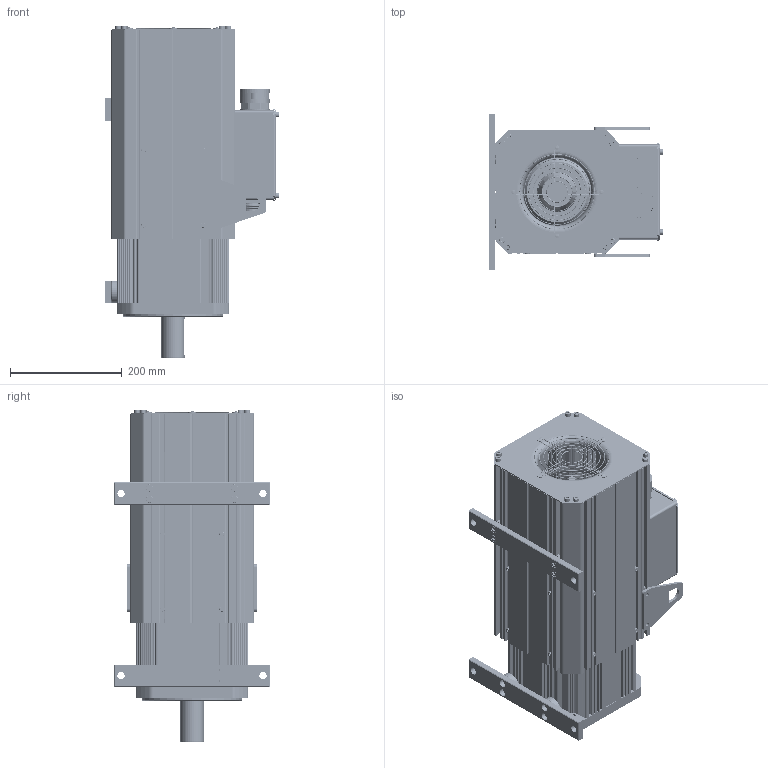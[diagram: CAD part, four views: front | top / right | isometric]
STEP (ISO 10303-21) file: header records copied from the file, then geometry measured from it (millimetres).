
FILE_DESCRIPTION((''),'2;1');
FILE_NAME('K058F18C18P_ASM','2023-05-23T14:29:39',('admin'),(''),'CREO PARAMETRIC BY PTC INC, 2019080','CREO PARAMETRIC BY PTC INC, 2019080','');
FILE_SCHEMA(('CONFIG_CONTROL_DESIGN'));
Products named in the file (44): QDG_10600-00001; ZZ_12400-01002_11KW; ZC_30400-00001; ZC_30400-01002; ZCZDQ_11200-00001; ZZZJ_80500-01002_11KW_ASM; O-RING_50000-01002; JK_10200-44045_11KW; DZZJ_80200-08009_11KW_ASM; FDB_12900-64065_11KW; DEGDT_11500-02003; DE_11300-00001; O-RING_50000-02003; YXHQ_20300-00001; O-RING_50000-03004; JXHT_41000-09010; JXHG_41000-00001; JXHGDK_11600-04005; M6X10; XJD_50800-11012; AD13_1; AD42P5_3; MFD_YD28-15P; HKXZ_YD28-15P_40100-00001; PDLD_4X12; JXHZJ_81100-00002_ASM; M5X25; HDG_21200-00001; M8X30; HGB_21600-00001; M4X10; FJ_40000-03004; FJFHB_11100-02003; FHW_30500-00001; PDQ_4; MD_4; FJFHBZZ_ASM; QZCJ_10400-15016; DK_12800-32033; HZCJ_10400-16017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
Assembly tree (102 placements, depth 3):
  K058F18C18P_ASM
    QDG_10600-00001
    ZZZJ_80500-01002_11KW_ASM
      ZZ_12400-01002_11KW
      ZC_30400-00001
      ZC_30400-01002
      ZCZDQ_11200-00001
    O-RING_50000-01002
    DZZJ_80200-08009_11KW_ASM
      JK_10200-44045_11KW
    FDB_12900-64065_11KW
    DEGDT_11500-02003  x2
    DE_11300-00001  x2
    O-RING_50000-02003
    YXHQ_20300-00001
    O-RING_50000-03004
    JXHZJ_81100-00002_ASM
      JXHT_41000-09010
      JXHG_41000-00001
      JXHGDK_11600-04005  x4
      M6X10  x8
      XJD_50800-11012
      AD13_1
      AD42P5_3
      MFD_YD28-15P
      HKXZ_YD28-15P_40100-00001
      PDLD_4X12  x4
    M5X25  x16
    HDG_21200-00001
    M8X30  x8
    HGB_21600-00001
    M4X10  x4
    FJ_40000-03004
    FJFHBZZ_ASM
      FJFHB_11100-02003
      FHW_30500-00001
      PDQ_4  x4
      MD_4  x4
    M6X10  x8
    ZCJZJ_22300-00007_11KW_ASM
      QZCJ_10400-15016
      DK_12800-32033  x2
      HZCJ_10400-16017
      GDK_11600-09010  x2
      M8X16  x4
Bounding box: 312.35 x 278 x 594 mm (x, y, z)
Volume: 8087857.7 mm3; surface area: 2912334.2 mm2
Topology: 111 solids, 115 shells, 5356 faces, 14217 edges, 9273 vertices
Faces by surface type: plane 2660, cylinder 2108, cone 241, torus 213, bspline 116, sphere 18
Entity records: 146993 total; most frequent: CARTESIAN_POINT 32958, DIRECTION 24204, ORIENTED_EDGE 23690, EDGE_CURVE 11853, AXIS2_PLACEMENT_3D 8496, VERTEX_POINT 7806, VECTOR 7212, LINE 7212
